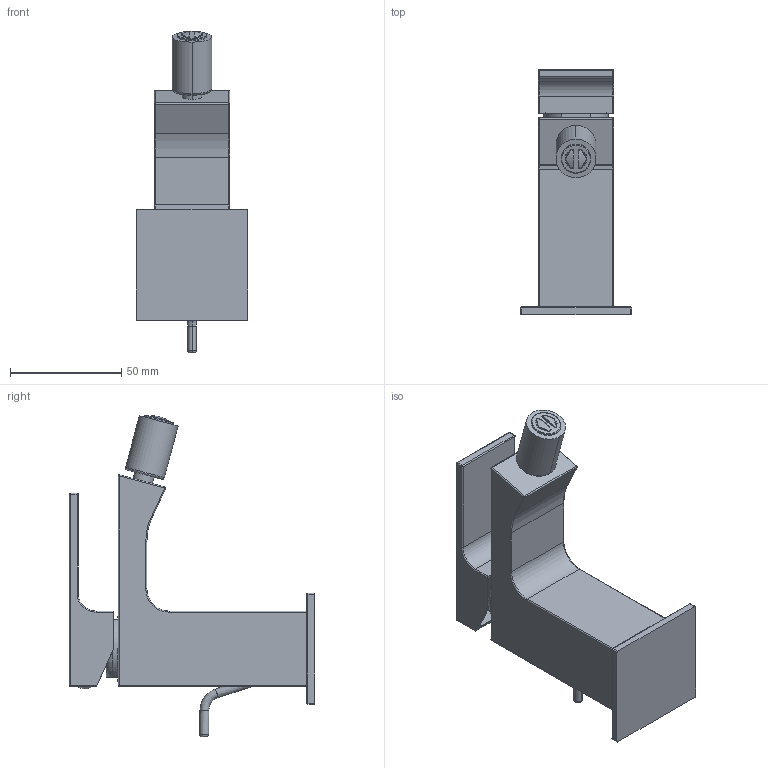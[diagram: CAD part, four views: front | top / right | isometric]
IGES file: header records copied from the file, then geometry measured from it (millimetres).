
Start section:  PTC IGES file: 35103.igs
Global section: file name: 35103.igs; native system: Creo Parametric by PTC Inc.; preprocessor: 2022014; author: carloff; organization: Unknown; date: 20240719.163752; units: millimetre
Bounding box: 50 x 110.4 x 144.67 mm (x, y, z)
Surface area: 37371.7 mm2 (no closed solid volume)
Topology: 0 solids, 0 shells, 396 faces, 2106 edges, 2100 vertices
Faces by surface type: revolution 244, bspline 152
